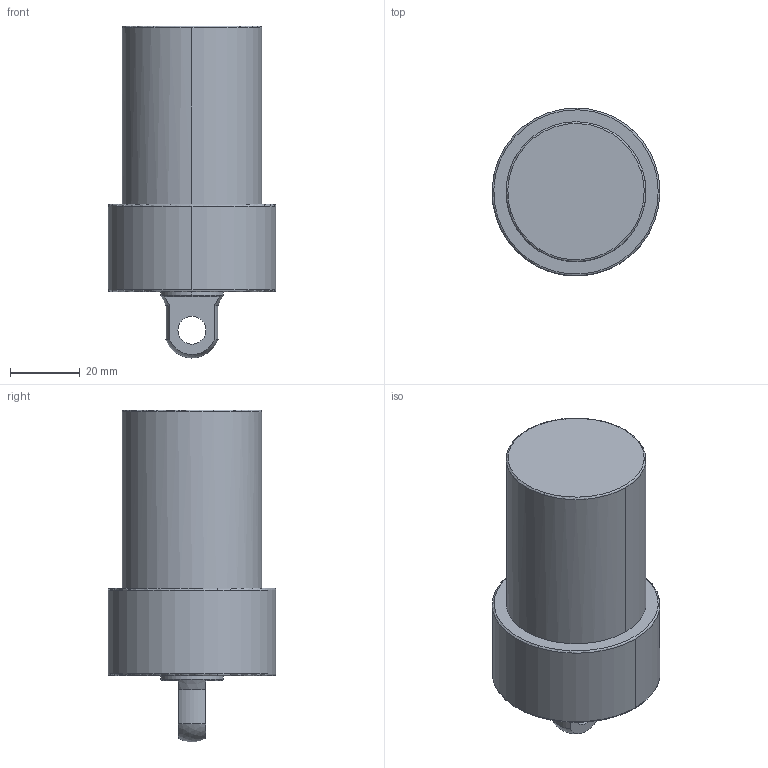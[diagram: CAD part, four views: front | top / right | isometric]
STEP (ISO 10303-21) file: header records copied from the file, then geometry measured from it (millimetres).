
FILE_DESCRIPTION((' '),'2;1');
FILE_NAME( 'TLLU-040GP-040.STEP.stp', '2025-10-24T16:37:15', (' '), ('--- Datakit www.datakit.com---'), ' Datakit CrossCadWare V2024.1 Dec 21 2023', 'Mastercam 2025', ' ');
FILE_SCHEMA(('AUTOMOTIVE_DESIGN { 1 0 10303 214 1 1 1 1 }'));
Length unit declared in the file: millimetre
Products named in the file (1): TLLU-040GP-040
Bounding box: 47.99 x 48 x 94.96 mm (x, y, z)
Volume: 110157.7 mm3; surface area: 15315.8 mm2
Topology: 1 solids, 1 shells, 56 faces, 167 edges, 113 vertices
Faces by surface type: cylinder 22, cone 18, plane 9, torus 6, sphere 1
Entity records: 1952 total; most frequent: DIRECTION 380, CARTESIAN_POINT 341, ORIENTED_EDGE 318, AXIS2_PLACEMENT_3D 168, EDGE_CURVE 159, VERTEX_POINT 113, CIRCLE 111, EDGE_LOOP 66
